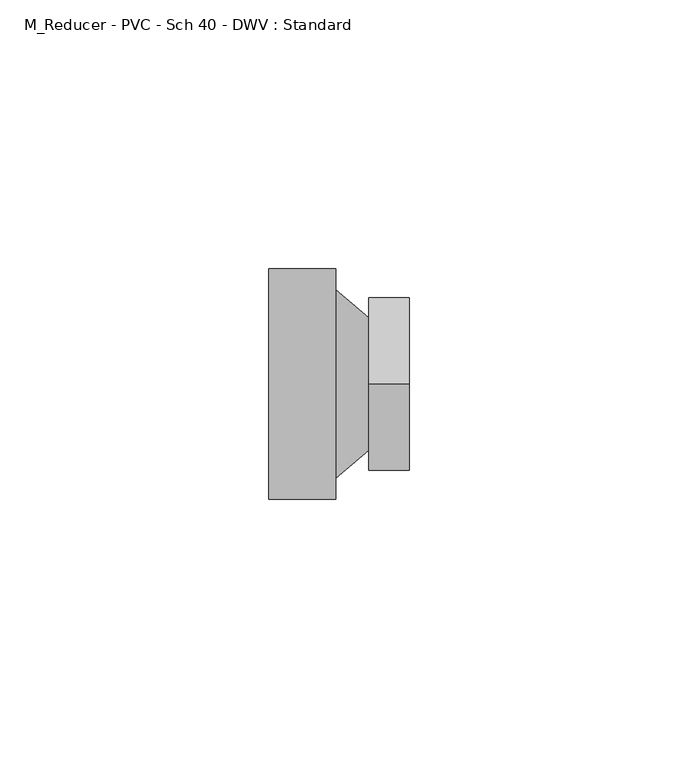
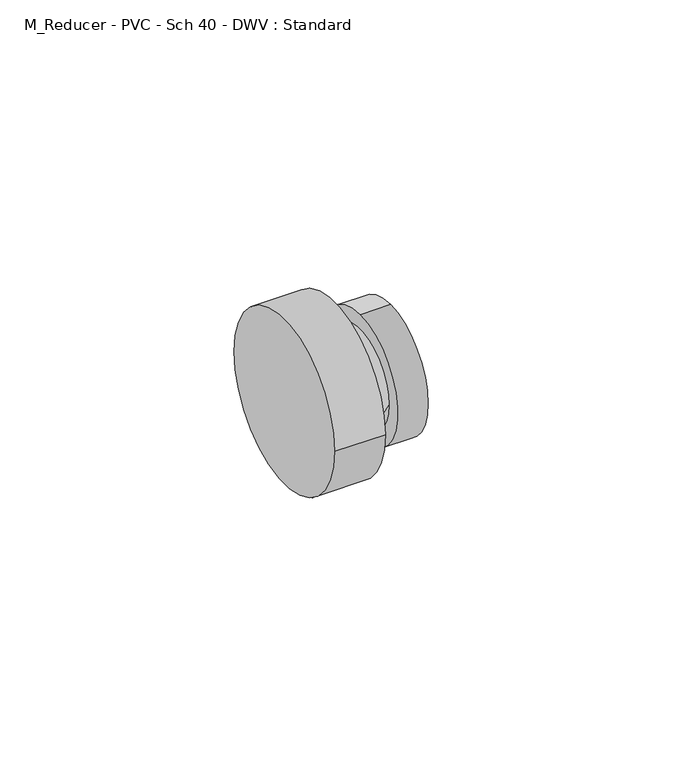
"""IFC4 building model written with IfcOpenShell, lengths in millimetres: pipe fitting geometry, M_Reducer - PVC - Sch 40 - DWV : Standard."""

from ifc_helpers import new_model, si_unit, frame, origin, place, context, project, spatial, polyline, circle_curve, source, transform, mapped, element, save
from ifc_brep_helpers import plane_surface, cylinder_surface, revolved_surface, advanced_brep


def m_reducer_pvc_sch_40_dwv_standard_1887a0f2(model_context):
    return source(origin(), model_context, "Body", "AdvancedBrep", [
        advanced_brep(
        [(0.0, -21.4871094, 0.0), (0.0, 21.4871094, 0.0), (12.5, -21.4871094, 0.0), (12.5, 21.4871094, 0.0), (12.5, 17.5640625, 0.0), (12.5, -17.5640625, 0.0), (18.6960938, 12.3640625, 0.0), (18.6960937, -12.3640625, 0.0), (18.6960938, 0.0, 16.0871094), (18.6960938, 0.0, -16.0871094), (26.1960938, 0.0, 16.0871094), (26.1960938, 0.0, -16.0871094)],
        [
            (0, 1, circle_curve(frame((0.0, 0.0, 0.0), z_axis=(-1.0, 0.0, 0.0), x_axis=(0.0, 1.0, 0.0)), 21.4871094)),
            (1, 0, circle_curve(frame((0.0, 0.0, 0.0), z_axis=(-1.0, 0.0, 0.0), x_axis=(0.0, 1.0, 0.0)), 21.4871094)),
            (2, 3, circle_curve(frame((12.5, 0.0, 0.0), z_axis=(1.0, 0.0, 0.0), x_axis=(0.0, 1.0, 0.0)), 21.4871094)),
            (3, 2, circle_curve(frame((12.5, 0.0, 0.0), z_axis=(1.0, 0.0, 0.0), x_axis=(0.0, 1.0, 0.0)), 21.4871094)),
            (4, 5, circle_curve(frame((12.5, 0.0, 0.0), z_axis=(-1.0, 0.0, 0.0), x_axis=(0.0, -1.0, 0.0)), 17.5640625)),
            (5, 4, circle_curve(frame((12.5, 0.0, 0.0), z_axis=(-1.0, 0.0, 0.0), x_axis=(0.0, 1.0, 0.0)), 17.5640625)),
            (0, 2),
            (3, 1),
            (4, 6),
            (6, 7, circle_curve(frame((18.6960938, 0.0, 0.0), z_axis=(-1.0, 0.0, 0.0), x_axis=(0.0, -1.0, 0.0)), 12.3640625)),
            (7, 5),
            (7, 6, circle_curve(frame((18.6960938, 0.0, 0.0), z_axis=(-1.0, 0.0, 0.0), x_axis=(0.0, 1.0, 0.0)), 12.3640625)),
            (8, 9, circle_curve(frame((18.6960938, 0.0, 0.0), z_axis=(-1.0, 0.0, 0.0), x_axis=(0.0, 0.0, -1.0)), 16.0871094)),
            (9, 8, circle_curve(frame((18.6960938, 0.0, 0.0), z_axis=(-1.0, 0.0, 0.0), x_axis=(0.0, 0.0, -1.0)), 16.0871094)),
            (10, 11, circle_curve(frame((26.1960938, 0.0, 0.0), z_axis=(1.0, 0.0, 0.0), x_axis=(0.0, 0.0, -1.0)), 16.0871094)),
            (11, 10, circle_curve(frame((26.1960938, 0.0, 0.0), z_axis=(1.0, 0.0, 0.0), x_axis=(0.0, 0.0, -1.0)), 16.0871094)),
            (8, 10),
            (11, 9),
        ],
        [
            plane_surface(frame((0.0, 0.0, 0.0), z_axis=(-1.0, 0.0, 0.0), x_axis=(0.0, 0.0, 1.0))),
            plane_surface(frame((12.5, 0.0, 0.0), z_axis=(1.0, 0.0, 0.0), x_axis=(0.0, 0.0, 1.0))),
            cylinder_surface(frame((0.0, 0.0, 0.0), z_axis=(-1.0, 0.0, 0.0), x_axis=(0.0, 1.0, 0.0)), 21.4871094),
            revolved_surface(polyline([(18.6960938, 12.364062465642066, 0.0), (12.5, 17.5640625, 0.0)]), (33.4285727, 0.0, 0.0), (-1.0, 0.0, 0.0)),
            plane_surface(frame((18.6960938, 0.0, 0.0), z_axis=(-1.0, 0.0, 0.0), x_axis=(0.0, 1.0, 0.0))),
            plane_surface(frame((26.1960938, 0.0, 0.0), z_axis=(1.0, 0.0, 0.0), x_axis=(0.0, 1.0, 0.0))),
            cylinder_surface(frame((18.6960938, 0.0, 0.0), z_axis=(-1.0, 0.0, 0.0), x_axis=(0.0, 0.0, -1.0)), 16.0871094),
        ],
        [
            (0, [[1, 2]]),
            (1, [[3, 4], [5, 6]]),
            (2, [[-1, 7, -4, 8]]),
            (2, [[-2, -8, -3, -7]]),
            (3, [[9, 10, 11, -5]]),
            (3, [[-9, -6, -11, 12]]),
            (4, [[13, 14], [-10, -12]]),
            (5, [[15, 16]]),
            (6, [[-13, 17, -16, 18]]),
            (6, [[-14, -18, -15, -17]]),
        ],
    ),
    ])


if __name__ == "__main__":
    model = new_model("IFC4")
    model_context = context("Model", 3, world=origin())
    ifc_project = project(units=[si_unit("LENGTHUNIT", "METRE", prefix="MILLI")], contexts=[model_context])
    site = spatial("IfcSite", under=ifc_project)
    building = spatial("IfcBuilding", under=site)
    placement = place(None, origin())
    m_reducer_pvc_sch_40_dwv_standard_shape = m_reducer_pvc_sch_40_dwv_standard_1887a0f2(model_context)
    element("IfcPipeFitting", 1, ObjectType="M_Reducer - PVC - Sch 40 - DWV : Standard", at=placement, inside=building, context=model_context, shape_type="MappedRepresentation", body=[
        mapped(m_reducer_pvc_sch_40_dwv_standard_shape, transform((0.0, 0.0, 0.0), x_axis=(1.0, 0.0, 0.0), y_axis=(0.0, 1.0, 0.0), z_axis=(0.0, 0.0, 1.0))),
    ])
    save(model, "model.ifc")
